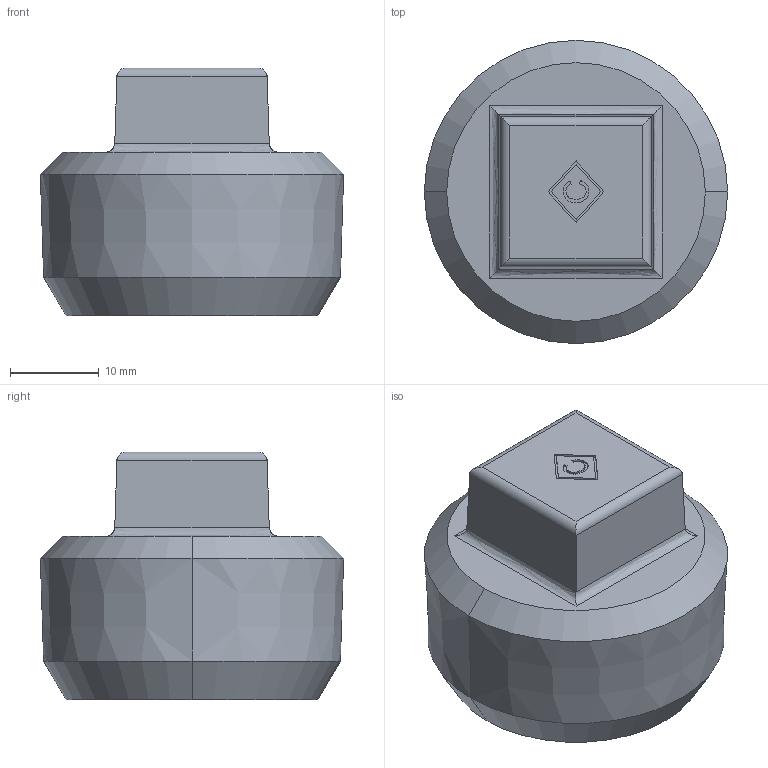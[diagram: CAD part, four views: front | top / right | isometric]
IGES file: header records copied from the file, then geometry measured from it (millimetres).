
Global section: file name: No Iges File Name specified; native system: AutoDesk Inventor R12.0; preprocessor: AutoDesk Inventor Iges Exporter R12.0; date: 20090915.101306; units: millimetre
Bounding box: 34.24 x 34.24 x 28 mm (x, y, z)
Volume: 18568.8 mm3; surface area: 3975.9 mm2
Topology: 1 solids, 1 shells, 42 faces, 96 edges, 60 vertices
Faces by surface type: plane 20, bspline 8, cone 6, revolution 4, cylinder 4
